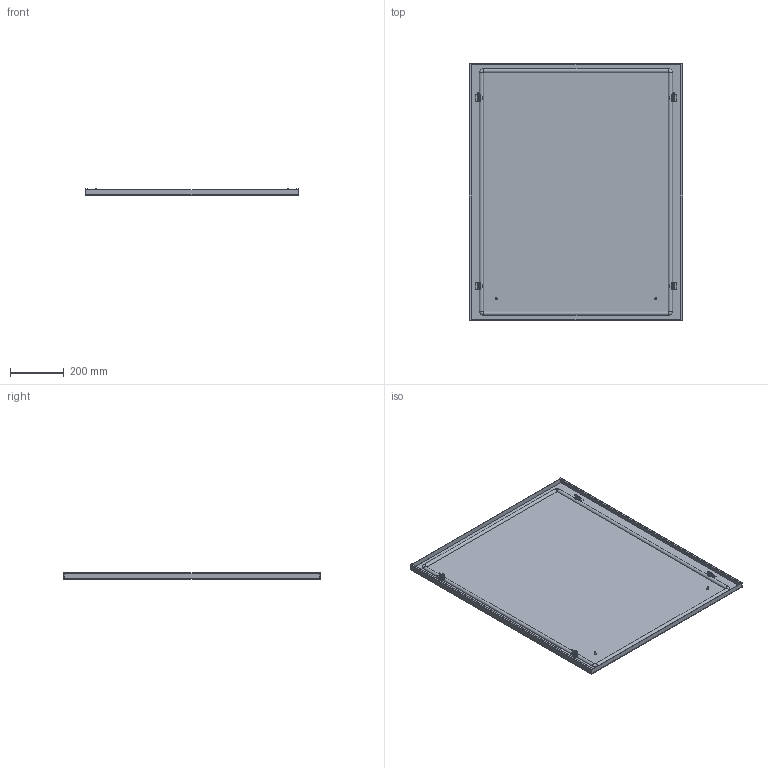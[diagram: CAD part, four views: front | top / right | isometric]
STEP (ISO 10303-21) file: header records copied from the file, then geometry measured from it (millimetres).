
FILE_DESCRIPTION(('Open CASCADE Model'),'2;1');
FILE_NAME('Open CASCADE Shape Model','2025-02-07T16:30:43',('Author'),( 'Open CASCADE'),'Open CASCADE STEP processor 7.8','Open CASCADE 7.8' ,'Unknown');
FILE_SCHEMA(('AUTOMOTIVE_DESIGN { 1 0 10303 214 1 1 1 1 }'));
Length unit declared in the file: millimetre
Products named in the file (10): Compound1; Compound2; Compound3; Solid1; Solid2; Solid3; Solid4; Solid5; Solid6; Solid7
Assembly tree (24 placements, depth 4):
  Compound1
    Compound2
      Compound3
        Solid1
        Solid2  x4
      Solid3
    Solid4  x4
    Solid5  x4
    Solid6  x4
    Solid7  x4
Bounding box: 794 x 955 x 23.8 mm (x, y, z)
Volume: 1558296.8 mm3; surface area: 1830989.4 mm2
Topology: 22 solids, 22 shells, 859 faces, 2090 edges, 1274 vertices
Faces by surface type: plane 543, cone 156, cylinder 140, torus 16, bspline 4
Full cylindrical faces by diameter (mm): 5 x8, 6 x68, 7.5 x4, 8 x8, 10 x4, 11.57 x4
Entity records: 7457 total; most frequent: CARTESIAN_POINT 1399, ORIENTED_EDGE 1216, DIRECTION 1205, EDGE_CURVE 608, LINE 409, VECTOR 409, AXIS2_PLACEMENT_3D 398, VERTEX_POINT 377
